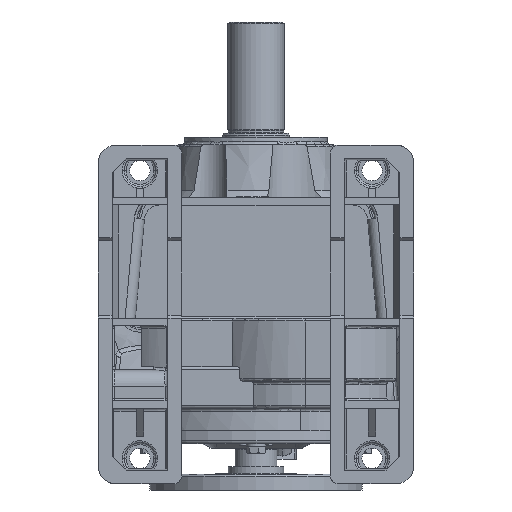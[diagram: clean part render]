
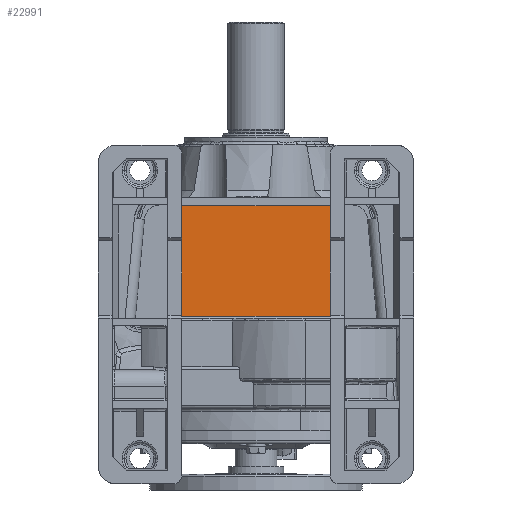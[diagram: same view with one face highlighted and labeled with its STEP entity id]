
A CAD part, front view. The second image highlights one B-rep face of the part: STEP entity #22991.
In plain terms, the highlighted planar face has unit normal (0, -1, 0).
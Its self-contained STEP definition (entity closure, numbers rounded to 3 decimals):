
#682 = CARTESIAN_POINT ( 'NONE',  ( -80., -165., -171.794 ) ) ;
#683 = DIRECTION ( 'NONE',  ( 0., 0., 1. ) ) ;
#684 = CARTESIAN_POINT ( 'NONE',  ( 128.859, -165., -179. ) ) ;
#685 = DIRECTION ( 'NONE',  ( 1., 0., 0. ) ) ;
#686 = CARTESIAN_POINT ( 'NONE',  ( 80., -165., -171.794 ) ) ;
#687 = DIRECTION ( 'NONE',  ( 0., 0., 1. ) ) ;
#692 = CARTESIAN_POINT ( 'NONE',  ( -103.201, -165., -60.103 ) ) ;
#693 = DIRECTION ( 'NONE',  ( -1., 0., 0. ) ) ;
#5594 = FACE_OUTER_BOUND ( 'NONE', #36089, .T. ) ;
#6856 = PLANE ( 'NONE',  #7174 ) ;
#6857 = CARTESIAN_POINT ( 'NONE',  ( 175., -165., 0. ) ) ;
#6858 = DIRECTION ( 'NONE',  ( 0., 1., 0. ) ) ;
#6859 = DIRECTION ( 'NONE',  ( 0., 0., 1. ) ) ;
#7174 = AXIS2_PLACEMENT_3D ( 'NONE', #6857, #6858, #6859 ) ;
#16239 = ORIENTED_EDGE ( 'NONE', *, *, #17924, .T. ) ;
#16241 = ORIENTED_EDGE ( 'NONE', *, *, #17928, .T. ) ;
#16243 = ORIENTED_EDGE ( 'NONE', *, *, #17925, .T. ) ;
#16245 = ORIENTED_EDGE ( 'NONE', *, *, #17923, .F. ) ;
#17923 = EDGE_CURVE ( 'NONE', #30469, #30467, #57287, .T. ) ;
#17924 = EDGE_CURVE ( 'NONE', #30469, #30470, #57288, .T. ) ;
#17925 = EDGE_CURVE ( 'NONE', #30470, #30468, #57289, .T. ) ;
#17928 = EDGE_CURVE ( 'NONE', #30468, #30467, #57292, .T. ) ;
#22991 = ADVANCED_FACE ( 'NONE', ( #5594 ), #6856, .F. ) ;
#27604 = CARTESIAN_POINT ( 'NONE',  ( -80., -165., -60.103 ) ) ;
#27605 = CARTESIAN_POINT ( 'NONE',  ( 80., -165., -60.103 ) ) ;
#27606 = CARTESIAN_POINT ( 'NONE',  ( -80., -165., -179. ) ) ;
#27607 = CARTESIAN_POINT ( 'NONE',  ( 80., -165., -179. ) ) ;
#30467 = VERTEX_POINT ( 'NONE', #27604 ) ;
#30468 = VERTEX_POINT ( 'NONE', #27605 ) ;
#30469 = VERTEX_POINT ( 'NONE', #27606 ) ;
#30470 = VERTEX_POINT ( 'NONE', #27607 ) ;
#36089 = EDGE_LOOP ( 'NONE', ( #16239, #16243, #16241, #16245 ) ) ;
#57287 = LINE ( 'NONE', #682, #58194 ) ;
#57288 = LINE ( 'NONE', #684, #58195 ) ;
#57289 = LINE ( 'NONE', #686, #58196 ) ;
#57292 = LINE ( 'NONE', #692, #58199 ) ;
#58194 = VECTOR ( 'NONE', #683, 1000. ) ;
#58195 = VECTOR ( 'NONE', #685, 1000. ) ;
#58196 = VECTOR ( 'NONE', #687, 1000. ) ;
#58199 = VECTOR ( 'NONE', #693, 1000. ) ;
